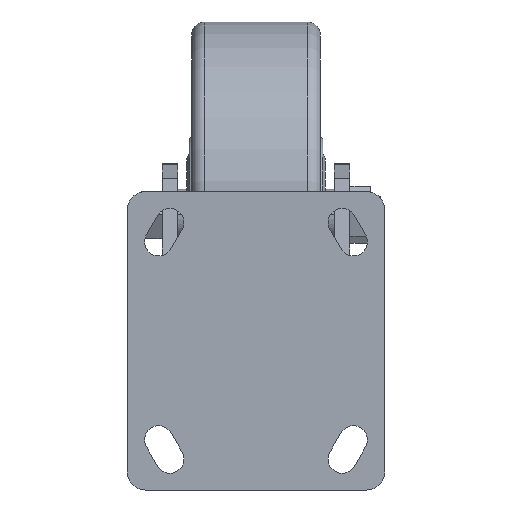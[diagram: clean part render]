
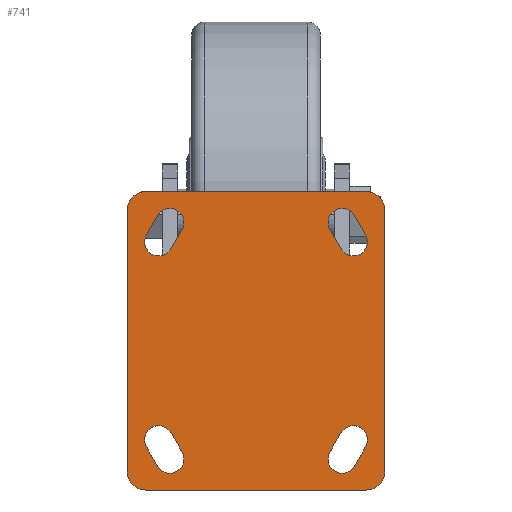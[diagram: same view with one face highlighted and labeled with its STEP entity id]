
A CAD part, front view. The second image highlights one B-rep face of the part: STEP entity #741.
In plain terms, the highlighted planar face has unit normal (0, -1, 0).
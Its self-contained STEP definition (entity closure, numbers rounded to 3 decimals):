
#2=DIRECTION('',(1.,0.,0.));
#3=VECTOR('',#2,86.);
#4=CARTESIAN_POINT('',(-43.,0.,-58.));
#5=LINE('',#4,#3);
#6=CARTESIAN_POINT('',(-43.,0.,-51.));
#7=DIRECTION('',(0.,-1.,0.));
#8=DIRECTION('',(-1.,0.,0.));
#9=AXIS2_PLACEMENT_3D('',#6,#7,#8);
#11=CARTESIAN_POINT('',(-43.,0.,51.));
#12=DIRECTION('',(0.,-1.,0.));
#13=DIRECTION('',(0.,0.,1.));
#14=AXIS2_PLACEMENT_3D('',#11,#12,#13);
#16=CARTESIAN_POINT('',(43.,0.,51.));
#17=DIRECTION('',(0.,-1.,0.));
#18=DIRECTION('',(1.,0.,0.));
#19=AXIS2_PLACEMENT_3D('',#16,#17,#18);
#21=DIRECTION('',(0.,0.,1.));
#22=VECTOR('',#21,102.);
#23=CARTESIAN_POINT('',(50.,0.,-51.));
#24=LINE('',#23,#22);
#25=CARTESIAN_POINT('',(43.,0.,-51.));
#26=DIRECTION('',(0.,-1.,0.));
#27=DIRECTION('',(0.,0.,-1.));
#28=AXIS2_PLACEMENT_3D('',#25,#26,#27);
#30=DIRECTION('',(-0.5,0.,-0.866));
#31=VECTOR('',#30,8.66);
#32=CARTESIAN_POINT('',(-38.263,0.,48.75));
#33=LINE('',#32,#31);
#34=CARTESIAN_POINT('',(-37.83,0.,38.5));
#35=DIRECTION('',(0.,-1.,0.));
#36=DIRECTION('',(-0.866,0.,0.5));
#37=AXIS2_PLACEMENT_3D('',#34,#35,#36);
#39=DIRECTION('',(0.5,0.,0.866));
#40=VECTOR('',#39,8.66);
#41=CARTESIAN_POINT('',(-33.067,0.,35.75));
#42=LINE('',#41,#40);
#43=CARTESIAN_POINT('',(-33.5,0.,46.));
#44=DIRECTION('',(0.,-1.,0.));
#45=DIRECTION('',(0.866,0.,-0.5));
#46=AXIS2_PLACEMENT_3D('',#43,#44,#45);
#48=CARTESIAN_POINT('',(-33.5,0.,-46.));
#49=DIRECTION('',(0.,-1.,0.));
#50=DIRECTION('',(-0.866,0.,-0.5));
#51=AXIS2_PLACEMENT_3D('',#48,#49,#50);
#53=DIRECTION('',(-0.5,0.,0.866));
#54=VECTOR('',#53,8.66);
#55=CARTESIAN_POINT('',(-28.737,0.,-43.25));
#56=LINE('',#55,#54);
#57=CARTESIAN_POINT('',(-37.83,0.,-38.5));
#58=DIRECTION('',(0.,-1.,0.));
#59=DIRECTION('',(0.866,0.,0.5));
#60=AXIS2_PLACEMENT_3D('',#57,#58,#59);
#62=DIRECTION('',(0.5,0.,-0.866));
#63=VECTOR('',#62,8.66);
#64=CARTESIAN_POINT('',(-42.593,0.,-41.25));
#65=LINE('',#64,#63);
#66=CARTESIAN_POINT('',(33.5,0.,46.));
#67=DIRECTION('',(0.,-1.,0.));
#68=DIRECTION('',(0.866,0.,0.5));
#69=AXIS2_PLACEMENT_3D('',#66,#67,#68);
#71=DIRECTION('',(0.5,0.,-0.866));
#72=VECTOR('',#71,8.66);
#73=CARTESIAN_POINT('',(28.737,0.,43.25));
#74=LINE('',#73,#72);
#75=CARTESIAN_POINT('',(37.83,0.,38.5));
#76=DIRECTION('',(0.,-1.,0.));
#77=DIRECTION('',(-0.866,0.,-0.5));
#78=AXIS2_PLACEMENT_3D('',#75,#76,#77);
#80=DIRECTION('',(-0.5,0.,0.866));
#81=VECTOR('',#80,8.66);
#82=CARTESIAN_POINT('',(42.593,0.,41.25));
#83=LINE('',#82,#81);
#84=CARTESIAN_POINT('',(33.5,0.,-46.));
#85=DIRECTION('',(0.,-1.,0.));
#86=DIRECTION('',(-0.866,0.,0.5));
#87=AXIS2_PLACEMENT_3D('',#84,#85,#86);
#89=DIRECTION('',(0.5,0.,0.866));
#90=VECTOR('',#89,8.66);
#91=CARTESIAN_POINT('',(38.263,0.,-48.75));
#92=LINE('',#91,#90);
#93=CARTESIAN_POINT('',(37.83,0.,-38.5));
#94=DIRECTION('',(0.,-1.,0.));
#95=DIRECTION('',(0.866,0.,-0.5));
#96=AXIS2_PLACEMENT_3D('',#93,#94,#95);
#98=DIRECTION('',(-0.5,0.,-0.866));
#99=VECTOR('',#98,8.66);
#100=CARTESIAN_POINT('',(33.067,0.,-35.75));
#101=LINE('',#100,#99);
#244=DIRECTION('',(1.,0.,0.));
#245=VECTOR('',#244,86.);
#246=CARTESIAN_POINT('',(-43.,0.,58.));
#247=LINE('',#246,#245);
#260=DIRECTION('',(0.,0.,1.));
#261=VECTOR('',#260,102.);
#262=CARTESIAN_POINT('',(-50.,0.,-51.));
#263=LINE('',#262,#261);
#538=CARTESIAN_POINT('',(-50.,0.,-51.));
#540=VERTEX_POINT('',#538);
#542=CARTESIAN_POINT('',(43.,0.,-58.));
#543=CARTESIAN_POINT('',(50.,0.,-51.));
#544=VERTEX_POINT('',#542);
#545=VERTEX_POINT('',#543);
#549=CARTESIAN_POINT('',(-43.,0.,-58.));
#551=VERTEX_POINT('',#549);
#552=CARTESIAN_POINT('',(-43.,0.,58.));
#553=CARTESIAN_POINT('',(-50.,0.,51.));
#554=VERTEX_POINT('',#552);
#555=VERTEX_POINT('',#553);
#572=CARTESIAN_POINT('',(50.,0.,51.));
#573=VERTEX_POINT('',#572);
#574=CARTESIAN_POINT('',(43.,0.,58.));
#575=VERTEX_POINT('',#574);
#614=CARTESIAN_POINT('',(-38.263,0.,48.75));
#615=CARTESIAN_POINT('',(-42.593,0.,41.25));
#616=VERTEX_POINT('',#614);
#617=VERTEX_POINT('',#615);
#618=CARTESIAN_POINT('',(-33.067,0.,35.75));
#619=VERTEX_POINT('',#618);
#620=CARTESIAN_POINT('',(-28.737,0.,43.25));
#621=VERTEX_POINT('',#620);
#622=CARTESIAN_POINT('',(-38.263,0.,-48.75));
#623=CARTESIAN_POINT('',(-28.737,0.,-43.25));
#624=VERTEX_POINT('',#622);
#625=VERTEX_POINT('',#623);
#626=CARTESIAN_POINT('',(-33.067,0.,-35.75));
#627=VERTEX_POINT('',#626);
#628=CARTESIAN_POINT('',(-42.593,0.,-41.25));
#629=VERTEX_POINT('',#628);
#630=CARTESIAN_POINT('',(38.263,0.,48.75));
#631=CARTESIAN_POINT('',(28.737,0.,43.25));
#632=VERTEX_POINT('',#630);
#633=VERTEX_POINT('',#631);
#634=CARTESIAN_POINT('',(33.067,0.,35.75));
#635=VERTEX_POINT('',#634);
#636=CARTESIAN_POINT('',(42.593,0.,41.25));
#637=VERTEX_POINT('',#636);
#638=CARTESIAN_POINT('',(28.737,0.,-43.25));
#639=CARTESIAN_POINT('',(38.263,0.,-48.75));
#640=VERTEX_POINT('',#638);
#641=VERTEX_POINT('',#639);
#642=CARTESIAN_POINT('',(42.593,0.,-41.25));
#643=VERTEX_POINT('',#642);
#644=CARTESIAN_POINT('',(33.067,0.,-35.75));
#645=VERTEX_POINT('',#644);
#678=CARTESIAN_POINT('',(0.,0.,15.421));
#679=DIRECTION('',(0.,1.,0.));
#680=DIRECTION('',(0.,0.,1.));
#681=AXIS2_PLACEMENT_3D('',#678,#679,#680);
#682=PLANE('',#681);
#684=ORIENTED_EDGE('',*,*,#683,.F.);
#686=ORIENTED_EDGE('',*,*,#685,.F.);
#688=ORIENTED_EDGE('',*,*,#687,.T.);
#690=ORIENTED_EDGE('',*,*,#689,.F.);
#692=ORIENTED_EDGE('',*,*,#691,.T.);
#694=ORIENTED_EDGE('',*,*,#693,.F.);
#696=ORIENTED_EDGE('',*,*,#695,.F.);
#698=ORIENTED_EDGE('',*,*,#697,.F.);
#699=EDGE_LOOP('',(#684,#686,#688,#690,#692,#694,#696,#698));
#700=FACE_OUTER_BOUND('',#699,.F.);
#702=ORIENTED_EDGE('',*,*,#701,.T.);
#704=ORIENTED_EDGE('',*,*,#703,.T.);
#706=ORIENTED_EDGE('',*,*,#705,.T.);
#708=ORIENTED_EDGE('',*,*,#707,.T.);
#709=EDGE_LOOP('',(#702,#704,#706,#708));
#710=FACE_BOUND('',#709,.F.);
#712=ORIENTED_EDGE('',*,*,#711,.T.);
#714=ORIENTED_EDGE('',*,*,#713,.T.);
#716=ORIENTED_EDGE('',*,*,#715,.T.);
#718=ORIENTED_EDGE('',*,*,#717,.T.);
#719=EDGE_LOOP('',(#712,#714,#716,#718));
#720=FACE_BOUND('',#719,.F.);
#722=ORIENTED_EDGE('',*,*,#721,.T.);
#724=ORIENTED_EDGE('',*,*,#723,.T.);
#726=ORIENTED_EDGE('',*,*,#725,.T.);
#728=ORIENTED_EDGE('',*,*,#727,.T.);
#729=EDGE_LOOP('',(#722,#724,#726,#728));
#730=FACE_BOUND('',#729,.F.);
#732=ORIENTED_EDGE('',*,*,#731,.T.);
#734=ORIENTED_EDGE('',*,*,#733,.T.);
#736=ORIENTED_EDGE('',*,*,#735,.T.);
#738=ORIENTED_EDGE('',*,*,#737,.T.);
#739=EDGE_LOOP('',(#732,#734,#736,#738));
#740=FACE_BOUND('',#739,.F.);
#10=CIRCLE('',#9,7.);
#15=CIRCLE('',#14,7.);
#20=CIRCLE('',#19,7.);
#29=CIRCLE('',#28,7.);
#38=CIRCLE('',#37,5.5);
#47=CIRCLE('',#46,5.5);
#52=CIRCLE('',#51,5.5);
#61=CIRCLE('',#60,5.5);
#70=CIRCLE('',#69,5.5);
#79=CIRCLE('',#78,5.5);
#88=CIRCLE('',#87,5.5);
#97=CIRCLE('',#96,5.5);
#683=EDGE_CURVE('',#551,#544,#5,.T.);
#685=EDGE_CURVE('',#540,#551,#10,.T.);
#687=EDGE_CURVE('',#540,#555,#263,.T.);
#689=EDGE_CURVE('',#554,#555,#15,.T.);
#691=EDGE_CURVE('',#554,#575,#247,.T.);
#693=EDGE_CURVE('',#573,#575,#20,.T.);
#695=EDGE_CURVE('',#545,#573,#24,.T.);
#697=EDGE_CURVE('',#544,#545,#29,.T.);
#701=EDGE_CURVE('',#616,#617,#33,.T.);
#703=EDGE_CURVE('',#617,#619,#38,.T.);
#705=EDGE_CURVE('',#619,#621,#42,.T.);
#707=EDGE_CURVE('',#621,#616,#47,.T.);
#711=EDGE_CURVE('',#624,#625,#52,.T.);
#713=EDGE_CURVE('',#625,#627,#56,.T.);
#715=EDGE_CURVE('',#627,#629,#61,.T.);
#717=EDGE_CURVE('',#629,#624,#65,.T.);
#721=EDGE_CURVE('',#632,#633,#70,.T.);
#723=EDGE_CURVE('',#633,#635,#74,.T.);
#725=EDGE_CURVE('',#635,#637,#79,.T.);
#727=EDGE_CURVE('',#637,#632,#83,.T.);
#731=EDGE_CURVE('',#640,#641,#88,.T.);
#733=EDGE_CURVE('',#641,#643,#92,.T.);
#735=EDGE_CURVE('',#643,#645,#97,.T.);
#737=EDGE_CURVE('',#645,#640,#101,.T.);
#741=ADVANCED_FACE('',(#700,#710,#720,#730,#740),#682,.F.);
